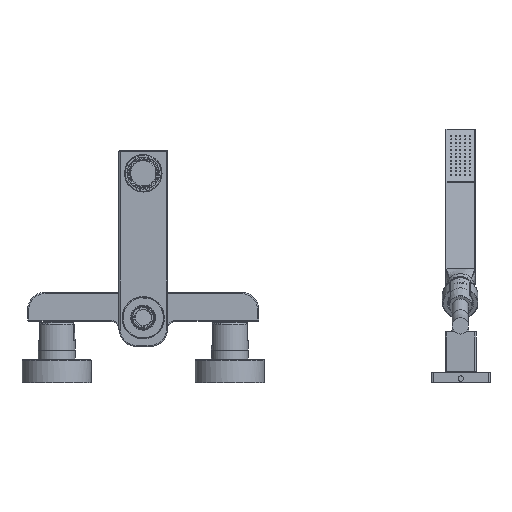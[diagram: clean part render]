
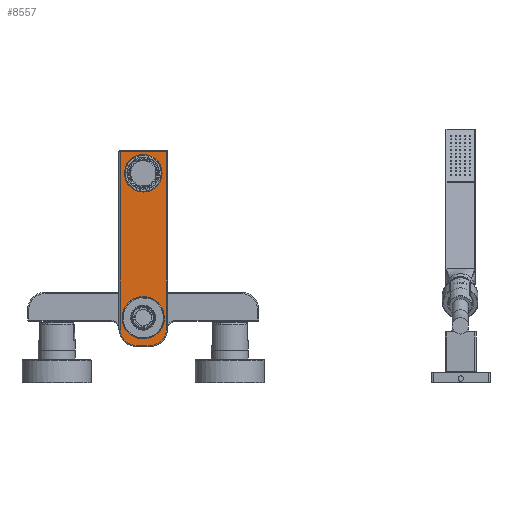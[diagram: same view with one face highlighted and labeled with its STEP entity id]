
A CAD part, front view. The second image highlights one B-rep face of the part: STEP entity #8557.
In plain terms, the highlighted planar face has unit normal (0, -1, 0).
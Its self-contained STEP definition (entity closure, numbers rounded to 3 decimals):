
#898=CIRCLE('',#9555,16.25);
#916=CIRCLE('',#9584,18.25);
#917=CIRCLE('',#9585,18.25);
#925=CIRCLE('',#9601,14.);
#926=CIRCLE('',#9602,14.);
#1208=FACE_BOUND('',#2408,.T.);
#1209=FACE_BOUND('',#2409,.T.);
#1763=FACE_OUTER_BOUND('',#2407,.T.);
#2407=EDGE_LOOP('',(#7097,#7098,#7099,#7100,#7101,#7102));
#2408=EDGE_LOOP('',(#7103,#7104));
#2409=EDGE_LOOP('',(#7105));
#2832=LINE('',#32699,#3227);
#2844=LINE('',#32756,#3239);
#2847=LINE('',#32769,#3242);
#2848=LINE('',#32776,#3243);
#3227=VECTOR('',#11712,40.);
#3239=VECTOR('',#11780,154.);
#3242=VECTOR('',#11797,154.);
#3243=VECTOR('',#11806,12.);
#3930=VERTEX_POINT('',#32682);
#3934=VERTEX_POINT('',#32694);
#3935=VERTEX_POINT('',#32698);
#3945=VERTEX_POINT('',#32734);
#3946=VERTEX_POINT('',#32736);
#3952=VERTEX_POINT('',#32754);
#3955=VERTEX_POINT('',#32768);
#3956=VERTEX_POINT('',#32772);
#3957=VERTEX_POINT('',#32774);
#5007=EDGE_CURVE('',#3930,#3930,#898,.T.);
#5015=EDGE_CURVE('',#3934,#3935,#2832,.T.);
#5034=EDGE_CURVE('',#3946,#3945,#916,.T.);
#5035=EDGE_CURVE('',#3945,#3946,#917,.T.);
#5044=EDGE_CURVE('',#3952,#3934,#2844,.T.);
#5050=EDGE_CURVE('',#3935,#3955,#2847,.T.);
#5052=EDGE_CURVE('',#3955,#3956,#925,.T.);
#5053=EDGE_CURVE('',#3957,#3952,#926,.T.);
#5054=EDGE_CURVE('',#3956,#3957,#2848,.T.);
#7097=ORIENTED_EDGE('',*,*,#5052,.F.);
#7098=ORIENTED_EDGE('',*,*,#5050,.F.);
#7099=ORIENTED_EDGE('',*,*,#5015,.F.);
#7100=ORIENTED_EDGE('',*,*,#5044,.F.);
#7101=ORIENTED_EDGE('',*,*,#5053,.F.);
#7102=ORIENTED_EDGE('',*,*,#5054,.F.);
#7103=ORIENTED_EDGE('',*,*,#5034,.T.);
#7104=ORIENTED_EDGE('',*,*,#5035,.T.);
#7105=ORIENTED_EDGE('',*,*,#5007,.T.);
#8123=PLANE('',#9600);
#8557=ADVANCED_FACE('',(#1763,#1208,#1209),#8123,.F.);
#9555=AXIS2_PLACEMENT_3D('',#32683,#11692,#11693);
#9584=AXIS2_PLACEMENT_3D('',#32737,#11759,#11760);
#9585=AXIS2_PLACEMENT_3D('',#32738,#11761,#11762);
#9600=AXIS2_PLACEMENT_3D('',#32771,#11800,#11801);
#9601=AXIS2_PLACEMENT_3D('',#32773,#11802,#11803);
#9602=AXIS2_PLACEMENT_3D('',#32775,#11804,#11805);
#11692=DIRECTION('center_axis',(0.,1.,0.));
#11693=DIRECTION('ref_axis',(-1.,0.,0.));
#11712=DIRECTION('',(1.,0.,0.));
#11759=DIRECTION('center_axis',(0.,1.,0.));
#11760=DIRECTION('ref_axis',(-1.,0.,0.));
#11761=DIRECTION('center_axis',(0.,1.,0.));
#11762=DIRECTION('ref_axis',(-1.,0.,0.));
#11780=DIRECTION('',(0.,0.,1.));
#11797=DIRECTION('',(0.,0.,-1.));
#11800=DIRECTION('center_axis',(0.,1.,0.));
#11801=DIRECTION('ref_axis',(0.,0.,1.));
#11802=DIRECTION('center_axis',(0.,1.,0.));
#11803=DIRECTION('ref_axis',(1.,0.,0.));
#11804=DIRECTION('center_axis',(0.,1.,0.));
#11805=DIRECTION('ref_axis',(0.,0.,-1.));
#11806=DIRECTION('',(-1.,0.,0.));
#32682=CARTESIAN_POINT('',(-16.25,-53.2,125.));
#32683=CARTESIAN_POINT('Origin',(0.,-53.2,
125.));
#32694=CARTESIAN_POINT('',(-20.,-53.2,144.));
#32698=CARTESIAN_POINT('',(20.,-53.2,144.));
#32699=CARTESIAN_POINT('',(-20.,-53.2,144.));
#32734=CARTESIAN_POINT('',(18.25,-53.2,0.));
#32736=CARTESIAN_POINT('',(-18.25,-53.2,0.));
#32737=CARTESIAN_POINT('Origin',(0.,-53.2,
0.));
#32738=CARTESIAN_POINT('Origin',(0.,-53.2,
0.));
#32754=CARTESIAN_POINT('',(-20.,-53.2,-10.));
#32756=CARTESIAN_POINT('',(-20.,-53.2,-10.));
#32768=CARTESIAN_POINT('',(20.,-53.2,-10.));
#32769=CARTESIAN_POINT('',(20.,-53.2,144.));
#32771=CARTESIAN_POINT('Origin',(0.,-53.2,-24.));
#32772=CARTESIAN_POINT('',(6.,-53.2,-24.));
#32773=CARTESIAN_POINT('Origin',(6.,-53.2,-10.));
#32774=CARTESIAN_POINT('',(-6.,-53.2,-24.));
#32775=CARTESIAN_POINT('Origin',(-6.,-53.2,-10.));
#32776=CARTESIAN_POINT('',(6.,-53.2,-24.));
